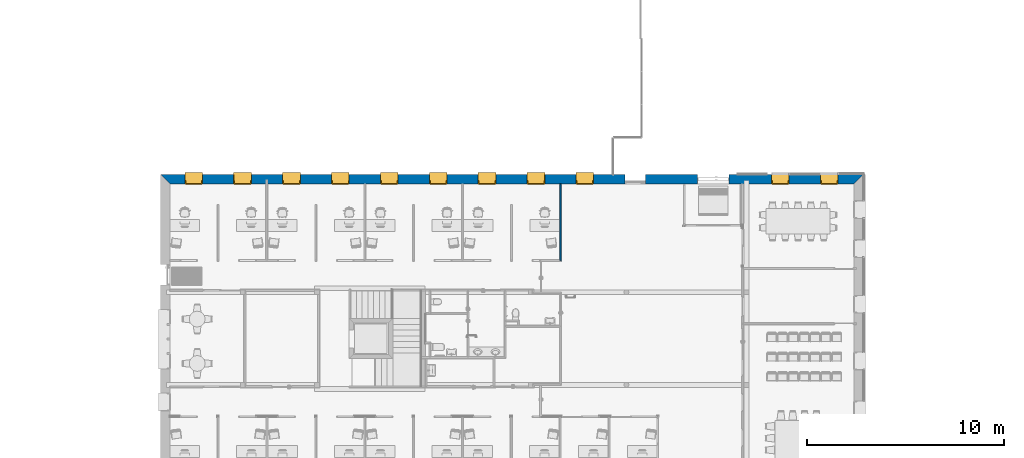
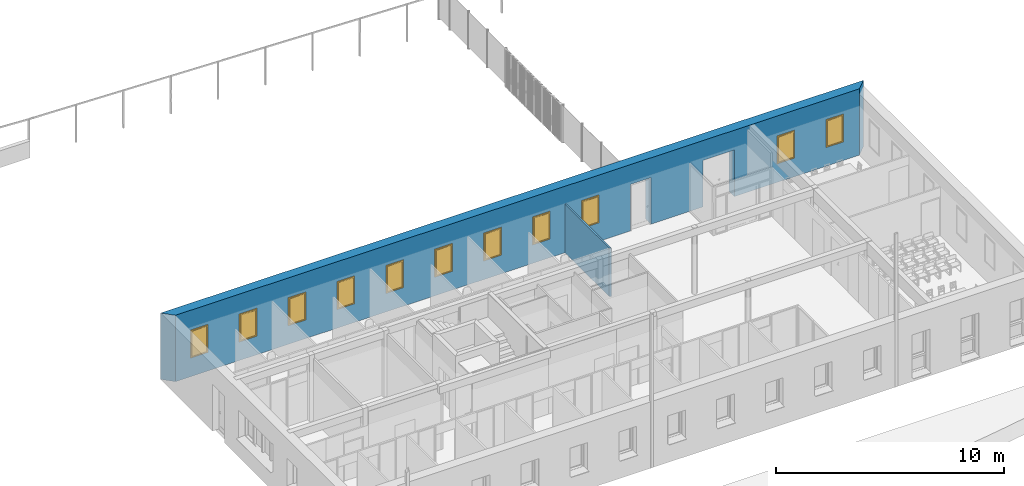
# One storey, part 27 of 91: 11 windows, 2 walls, 13 openings.
"""IFC2X3 building model written with IfcOpenShell, lengths in metres."""

from ifc_helpers import new_model, entity, si_unit, converted_unit, derived_unit, money_unit, direction, frame, origin_with_axes, origin_2d_with_axis, place, context, subcontext, project, spatial, polyline, rectangle, outline, extrude, open_shell, faceted_brep, surface_model, source, transform, mapped, material, layer, layer_set, layer_usage, type_object, element, fill, save


model = new_model("IFC2X3")

# Units and contexts
model_context = context("Model", 3, precision=1e-05, world=origin_with_axes(), true_north=direction((0.0, 1.0)))
body_context = subcontext(model_context, "Body", "Model", "MODEL_VIEW")
ifc_project = project(units=[si_unit("LENGTHUNIT", "METRE"), si_unit("AREAUNIT", "SQUARE_METRE"), si_unit("VOLUMEUNIT", "CUBIC_METRE"), converted_unit("PLANEANGLEUNIT", "DEGREE", entity("IfcPlaneAngleMeasure", 0.0174532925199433), si_unit("PLANEANGLEUNIT", "RADIAN"), dimensions=[0, 0, 0, 0, 0, 0, 0]), money_unit("EUR"), converted_unit("TIMEUNIT", "Year", entity("IfcTimeMeasure", 31557600.0), si_unit("TIMEUNIT", "SECOND"), dimensions=[0, 0, 1, 0, 0, 0, 0]), si_unit("MASSUNIT", "GRAM", prefix="KILO"), si_unit("THERMODYNAMICTEMPERATUREUNIT", "DEGREE_CELSIUS"), si_unit("LUMINOUSINTENSITYUNIT", "LUMEN"), si_unit("ENERGYUNIT", "JOULE", prefix="MEGA"), derived_unit("THERMALCONDUCTANCEUNIT", [(si_unit("POWERUNIT", "WATT"), 1), (si_unit("LENGTHUNIT", "METRE"), -1), (si_unit("THERMODYNAMICTEMPERATUREUNIT", "KELVIN"), -1)]), derived_unit("SPECIFICHEATCAPACITYUNIT", [(si_unit("ENERGYUNIT", "JOULE"), 1), (si_unit("MASSUNIT", "GRAM", prefix="KILO"), -1), (si_unit("THERMODYNAMICTEMPERATUREUNIT", "KELVIN"), -1)]), derived_unit("MASSDENSITYUNIT", [(si_unit("MASSUNIT", "GRAM", prefix="KILO"), 1), (si_unit("VOLUMEUNIT", "CUBIC_METRE"), -1)])], contexts=[model_context])

# Site, building, storey
site_placement = place(None, origin_with_axes())
site = spatial("IfcSite", under=ifc_project, at=site_placement, Name="Site", CompositionType="ELEMENT")
building_placement = place(site_placement, origin_with_axes())
building = spatial("IfcBuilding", under=site, at=building_placement, Name="Bâtiment", CompositionType="ELEMENT")
storey_placement = place(building_placement, origin_with_axes())
storey = spatial("IfcBuildingStorey", under=building, at=storey_placement, Name="RDC", CompositionType="ELEMENT", Elevation=0.0)

# Wall
ifc_material_1 = material(Name="*PLAQUE DE PLATRE - CLOISON")
ifc_layer_1 = layer(ifc_material_1, 0.08, ventilated="UNKNOWN")
ifc_layer_set_1 = layer_set([ifc_layer_1], Name="*PLAQUE DE PLATRE - CLOISON 0.08")
ifc_layer_usage_1 = layer_usage(ifc_layer_set_1, "AXIS2", "NEGATIVE", 0.0)
wall_type_1 = type_object("IfcWallType", Name="*PLAQUE DE PLATRE - CLOISON 80", PredefinedType="NOTDEFINED")
wall_1_placement = place(storey_placement, frame((44.86299999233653, -15.18656213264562, 0.0), z_axis=(0.0, 0.0, 1.0), x_axis=(0.0, 1.0, 0.0)))
element("IfcWallStandardCase", 1, at=wall_1_placement, inside=storey, type_object=wall_type_1, material=ifc_layer_usage_1, Name="Cloison modulaire", context=body_context, shape_type="SweptSolid", body=[
    extrude(outline(polyline([(0.0, -0.0799999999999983), (3.929000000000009, -0.0799999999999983), (3.929000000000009, 0.0), (0.08000000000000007, 0.0), (0.0, -0.0799999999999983)])), origin_with_axes(), (0.0, 0.0, 1.0), 2.6),
])

# Wall, openings, windows
ifc_material_2 = material(Name="*MÉTAL- BARDAGE")
ifc_layer_2 = layer(ifc_material_2, 0.04, ventilated="UNKNOWN")
ifc_material_3 = material(Name="Divers - Vide faux plafond")
ifc_layer_3 = layer(ifc_material_3, 0.05, ventilated="UNKNOWN")
ifc_material_4 = material(Name="Finition int - Enduit plâtre")
ifc_layer_4 = layer(ifc_material_4, 0.01, ventilated="UNKNOWN")
ifc_material_5 = material(Name="*GENERIQUE - MAÇONNERIE")
ifc_layer_5 = layer(ifc_material_5, 0.2, ventilated="UNKNOWN")
ifc_layer_6 = layer(ifc_material_4, 0.01, ventilated="UNKNOWN")
ifc_material_6 = material(Name="Vide pour liteaux")
ifc_layer_7 = layer(ifc_material_6, 0.01, ventilated="UNKNOWN")
ifc_material_7 = material(Name="*GENERIQUE - ISOLATION PLANCHER")
ifc_layer_8 = layer(ifc_material_7, 0.14, ventilated="UNKNOWN")
ifc_material_8 = material(Name="*PLAQUE DE PLATRE - DOUBLAGE")
ifc_layer_9 = layer(ifc_material_8, 0.018, ventilated="UNKNOWN")
ifc_layer_set_2 = layer_set([ifc_layer_2, ifc_layer_3, ifc_layer_4, ifc_layer_5, ifc_layer_6, ifc_layer_7, ifc_layer_8, ifc_layer_9], Name="*MACONNERIE ITI BARDAGE METAL")
ifc_layer_usage_2 = layer_usage(ifc_layer_set_2, "AXIS2", "POSITIVE", -0.478)
wall_type_2 = type_object("IfcWallType", Name="*MACONNERIE ITI BARDAGE METAL 478", PredefinedType="NOTDEFINED")
wall_2_placement = place(storey_placement, frame((59.8, -11.25756213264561, 0.0), z_axis=(0.0, 0.0, 1.0), x_axis=(-1.0, 0.0, 0.0)))
wall_2 = element("IfcWallStandardCase", 2, at=wall_2_placement, inside=storey, type_object=wall_type_2, material=ifc_layer_usage_2, Name="Mur maçonné + ITI + véture métallique", context=body_context, shape_type="SweptSolid", body=[
    extrude(outline(polyline([(-0.4780000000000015, -0.4779999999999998), (35.17800000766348, -0.4779999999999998), (34.70000000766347, 0.0), (0.0, 0.0), (-0.4780000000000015, -0.4779999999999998)])), origin_with_axes(), (0.0, 0.0, 1.0), 3.56),
])
opening_1_placement = place(wall_2_placement, frame((33.49700000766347, 0.0, 1.0), z_axis=(0.0, 0.0, 1.0), x_axis=(1.0, 0.0, 0.0)))
opening_1 = element("IfcOpeningElement", 3, at=opening_1_placement, cuts=wall_2, Name="ME.01", context=body_context, shape_type="SweptSolid", body=[
    extrude(rectangle(XDim=0.8999999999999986, YDim=1.5, at=origin_2d_with_axis()), frame((0.0, -0.158000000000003, 0.75), z_axis=(0.0, 1.0, 0.0), x_axis=(1.0, 0.0, 0.0)), (0.0, 0.0, -1.0), 0.798),
    extrude(rectangle(XDim=0.8999999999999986, YDim=1.5, at=origin_2d_with_axis()), frame((0.0, -0.158000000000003, 0.75), z_axis=(0.0, -1.0, 0.0), x_axis=(1.0, 0.0, 0.0)), (0.0, 0.0, -1.0), 0.6360000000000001),
])
opening_2_placement = place(wall_2_placement, frame((31.01700000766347, 0.0, 1.0), z_axis=(0.0, 0.0, 1.0), x_axis=(1.0, 0.0, 0.0)))
opening_2 = element("IfcOpeningElement", 4, at=opening_2_placement, cuts=wall_2, Name="ME.01", context=body_context, shape_type="SweptSolid", body=[
    extrude(rectangle(XDim=0.8999999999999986, YDim=1.5, at=origin_2d_with_axis()), frame((0.0, -0.158000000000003, 0.75), z_axis=(0.0, 1.0, 0.0), x_axis=(1.0, 0.0, 0.0)), (0.0, 0.0, -1.0), 0.798),
    extrude(rectangle(XDim=0.8999999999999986, YDim=1.5, at=origin_2d_with_axis()), frame((0.0, -0.158000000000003, 0.75), z_axis=(0.0, -1.0, 0.0), x_axis=(1.0, 0.0, 0.0)), (0.0, 0.0, -1.0), 0.6360000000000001),
])
opening_3_placement = place(wall_2_placement, frame((28.53700000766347, 0.0, 1.0), z_axis=(0.0, 0.0, 1.0), x_axis=(1.0, 0.0, 0.0)))
opening_3 = element("IfcOpeningElement", 5, at=opening_3_placement, cuts=wall_2, Name="ME.01", context=body_context, shape_type="SweptSolid", body=[
    extrude(rectangle(XDim=0.8999999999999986, YDim=1.5, at=origin_2d_with_axis()), frame((0.0, -0.158000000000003, 0.75), z_axis=(0.0, 1.0, 0.0), x_axis=(1.0, 0.0, 0.0)), (0.0, 0.0, -1.0), 0.798),
    extrude(rectangle(XDim=0.8999999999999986, YDim=1.5, at=origin_2d_with_axis()), frame((0.0, -0.158000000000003, 0.75), z_axis=(0.0, -1.0, 0.0), x_axis=(1.0, 0.0, 0.0)), (0.0, 0.0, -1.0), 0.6360000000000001),
])
opening_4_placement = place(wall_2_placement, frame((26.05700000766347, 0.0, 1.0), z_axis=(0.0, 0.0, 1.0), x_axis=(1.0, 0.0, 0.0)))
opening_4 = element("IfcOpeningElement", 6, at=opening_4_placement, cuts=wall_2, Name="ME.01", context=body_context, shape_type="SweptSolid", body=[
    extrude(rectangle(XDim=0.9000000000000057, YDim=1.5, at=origin_2d_with_axis()), frame((0.0, -0.158000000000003, 0.75), z_axis=(0.0, 1.0, 0.0), x_axis=(1.0, 0.0, 0.0)), (0.0, 0.0, -1.0), 0.798),
    extrude(rectangle(XDim=0.9000000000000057, YDim=1.5, at=origin_2d_with_axis()), frame((0.0, -0.158000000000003, 0.75), z_axis=(0.0, -1.0, 0.0), x_axis=(1.0, 0.0, 0.0)), (0.0, 0.0, -1.0), 0.6360000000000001),
])
opening_5_placement = place(wall_2_placement, frame((23.57700000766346, 0.0, 1.0), z_axis=(0.0, 0.0, 1.0), x_axis=(1.0, 0.0, 0.0)))
opening_5 = element("IfcOpeningElement", 7, at=opening_5_placement, cuts=wall_2, Name="ME.01", context=body_context, shape_type="SweptSolid", body=[
    extrude(rectangle(XDim=0.9000000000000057, YDim=1.5, at=origin_2d_with_axis()), frame((0.0, -0.158000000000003, 0.75), z_axis=(0.0, 1.0, 0.0), x_axis=(1.0, 0.0, 0.0)), (0.0, 0.0, -1.0), 0.798),
    extrude(rectangle(XDim=0.9000000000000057, YDim=1.5, at=origin_2d_with_axis()), frame((0.0, -0.158000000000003, 0.75), z_axis=(0.0, -1.0, 0.0), x_axis=(1.0, 0.0, 0.0)), (0.0, 0.0, -1.0), 0.6360000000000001),
])
opening_6_placement = place(wall_2_placement, frame((21.09700000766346, 0.0, 1.0), z_axis=(0.0, 0.0, 1.0), x_axis=(1.0, 0.0, 0.0)))
opening_6 = element("IfcOpeningElement", 8, at=opening_6_placement, cuts=wall_2, Name="ME.01", context=body_context, shape_type="SweptSolid", body=[
    extrude(rectangle(XDim=0.9000000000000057, YDim=1.5, at=origin_2d_with_axis()), frame((0.0, -0.1580000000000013, 0.75), z_axis=(0.0, 1.0, 0.0), x_axis=(1.0, 0.0, 0.0)), (0.0, 0.0, -1.0), 0.798),
    extrude(rectangle(XDim=0.9000000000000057, YDim=1.5, at=origin_2d_with_axis()), frame((0.0, -0.1580000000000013, 0.75), z_axis=(0.0, -1.0, 0.0), x_axis=(1.0, 0.0, 0.0)), (0.0, 0.0, -1.0), 0.6360000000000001),
])
opening_7_placement = place(wall_2_placement, frame((18.61700000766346, 0.0, 1.0), z_axis=(0.0, 0.0, 1.0), x_axis=(1.0, 0.0, 0.0)))
opening_7 = element("IfcOpeningElement", 9, at=opening_7_placement, cuts=wall_2, Name="ME.01", context=body_context, shape_type="SweptSolid", body=[
    extrude(rectangle(XDim=0.9000000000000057, YDim=1.5, at=origin_2d_with_axis()), frame((0.0, -0.1580000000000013, 0.75), z_axis=(0.0, 1.0, 0.0), x_axis=(1.0, 0.0, 0.0)), (0.0, 0.0, -1.0), 0.798),
    extrude(rectangle(XDim=0.9000000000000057, YDim=1.5, at=origin_2d_with_axis()), frame((0.0, -0.1580000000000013, 0.75), z_axis=(0.0, -1.0, 0.0), x_axis=(1.0, 0.0, 0.0)), (0.0, 0.0, -1.0), 0.6360000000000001),
])
opening_8_placement = place(wall_2_placement, frame((16.13700000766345, 0.0, 1.0), z_axis=(0.0, 0.0, 1.0), x_axis=(1.0, 0.0, 0.0)))
opening_8 = element("IfcOpeningElement", 10, at=opening_8_placement, cuts=wall_2, Name="ME.01", context=body_context, shape_type="SweptSolid", body=[
    extrude(rectangle(XDim=0.9000000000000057, YDim=1.5, at=origin_2d_with_axis()), frame((0.0, -0.1580000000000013, 0.75), z_axis=(0.0, 1.0, 0.0), x_axis=(1.0, 0.0, 0.0)), (0.0, 0.0, -1.0), 0.798),
    extrude(rectangle(XDim=0.9000000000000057, YDim=1.5, at=origin_2d_with_axis()), frame((0.0, -0.1580000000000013, 0.75), z_axis=(0.0, -1.0, 0.0), x_axis=(1.0, 0.0, 0.0)), (0.0, 0.0, -1.0), 0.6360000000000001),
])
opening_9_placement = place(wall_2_placement, frame((3.737000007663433, 0.0, 1.0), z_axis=(0.0, 0.0, 1.0), x_axis=(1.0, 0.0, 0.0)))
opening_9 = element("IfcOpeningElement", 11, at=opening_9_placement, cuts=wall_2, Name="ME.01", context=body_context, shape_type="SweptSolid", body=[
    extrude(rectangle(XDim=0.9000000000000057, YDim=1.5, at=origin_2d_with_axis()), frame((0.0, -0.1579999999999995, 0.75), z_axis=(0.0, 1.0, 0.0), x_axis=(1.0, 0.0, 0.0)), (0.0, 0.0, -1.0), 0.798),
    extrude(rectangle(XDim=0.9000000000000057, YDim=1.5, at=origin_2d_with_axis()), frame((0.0, -0.1579999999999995, 0.75), z_axis=(0.0, -1.0, 0.0), x_axis=(1.0, 0.0, 0.0)), (0.0, 0.0, -1.0), 0.6360000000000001),
])
opening_10_placement = place(wall_2_placement, frame((1.257000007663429, 0.0, 1.0), z_axis=(0.0, 0.0, 1.0), x_axis=(1.0, 0.0, 0.0)))
opening_10 = element("IfcOpeningElement", 12, at=opening_10_placement, cuts=wall_2, Name="ME.01", context=body_context, shape_type="SweptSolid", body=[
    extrude(rectangle(XDim=0.9000000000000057, YDim=1.5, at=origin_2d_with_axis()), frame((0.0, -0.1579999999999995, 0.75), z_axis=(0.0, 1.0, 0.0), x_axis=(1.0, 0.0, 0.0)), (0.0, 0.0, -1.0), 0.798),
    extrude(rectangle(XDim=0.9000000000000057, YDim=1.5, at=origin_2d_with_axis()), frame((0.0, -0.1579999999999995, 0.75), z_axis=(0.0, -1.0, 0.0), x_axis=(1.0, 0.0, 0.0)), (0.0, 0.0, -1.0), 0.6360000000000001),
])
opening_11_placement = place(wall_2_placement, frame((13.65700000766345, 0.0, 1.0), z_axis=(0.0, 0.0, 1.0), x_axis=(1.0, 0.0, 0.0)))
opening_11 = element("IfcOpeningElement", 13, at=opening_11_placement, cuts=wall_2, Name="ME.01", context=body_context, shape_type="SweptSolid", body=[
    extrude(rectangle(XDim=0.9000000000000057, YDim=1.5, at=origin_2d_with_axis()), frame((0.0, -0.1580000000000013, 0.75), z_axis=(0.0, 1.0, 0.0), x_axis=(1.0, 0.0, 0.0)), (0.0, 0.0, -1.0), 0.798),
    extrude(rectangle(XDim=0.9000000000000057, YDim=1.5, at=origin_2d_with_axis()), frame((0.0, -0.1580000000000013, 0.75), z_axis=(0.0, -1.0, 0.0), x_axis=(1.0, 0.0, 0.0)), (0.0, 0.0, -1.0), 0.6360000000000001),
])
opening_12_placement = place(wall_2_placement, frame((7.140000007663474, 0.0, 0.0), z_axis=(0.0, 0.0, 1.0), x_axis=(1.0, 0.0, 0.0)))
element("IfcOpeningElement", 14, at=opening_12_placement, cuts=wall_2, Name="PE.01", context=body_context, shape_type="SweptSolid", body=[
    extrude(rectangle(XDim=1.599999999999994, YDim=2.5, at=origin_2d_with_axis()), frame((0.0, -0.3279999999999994, 1.25), z_axis=(0.0, 1.0, 0.0), x_axis=(1.0, 0.0, 0.0)), (0.0, 0.0, 1.0), 0.806),
    extrude(rectangle(XDim=1.599999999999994, YDim=2.5, at=origin_2d_with_axis()), frame((0.0, -0.3279999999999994, 1.25), z_axis=(0.0, -1.0, 0.0), x_axis=(1.0, 0.0, 0.0)), (0.0, 0.0, 1.0), 0.628),
])
opening_13_placement = place(wall_2_placement, frame((11.10200000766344, 0.0, 0.0), z_axis=(0.0, 0.0, 1.0), x_axis=(1.0, 0.0, 0.0)))
element("IfcOpeningElement", 15, at=opening_13_placement, cuts=wall_2, Name="PE.02", context=body_context, shape_type="SweptSolid", body=[
    extrude(rectangle(XDim=1.049999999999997, YDim=2.5, at=origin_2d_with_axis()), frame((0.0, -0.1180000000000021, 1.25), z_axis=(0.0, -1.0, 0.0), x_axis=(1.0, 0.0, 0.0)), (0.0, 0.0, 1.0), 0.8380000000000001),
    extrude(rectangle(XDim=1.049999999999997, YDim=2.5, at=origin_2d_with_axis()), frame((0.0, -0.1180000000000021, 1.25), z_axis=(0.0, 1.0, 0.0), x_axis=(1.0, 0.0, 0.0)), (0.0, 0.0, 1.0), 0.5960000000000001),
])
window_style = type_object("IfcWindowStyle", Name="Fenêtre 27", ConstructionType="NOTDEFINED", OperationType="SINGLE_PANEL", ParameterTakesPrecedence=False, Sizeable=False)
shared_shape = source(origin_with_axes(), body_context, "Body", "SurfaceModel", [
    surface_model("IfcShellBasedSurfaceModel", [(-0.45, -0.161, 0.05), (-0.45, -0.161, 0.03999999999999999), (0.45, -0.161, 0.04000000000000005), (0.45, -0.161, 0.05000000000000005), (-0.45, -0.5850000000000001, 0.01343749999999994), (0.45, -0.5850000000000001, 0.01343749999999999), (-0.45, -0.5850000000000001, -0.006562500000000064), (0.45, -0.5850000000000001, -0.006562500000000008), (-0.45, -0.5750000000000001, 0.003437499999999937), (0.45, -0.5750000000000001, 0.003437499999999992)], [open_shell([[[0, 1, 2, 3]], [[1, 4, 5, 2]], [[4, 6, 7, 5]], [[6, 8, 9, 7]]])]),
    faceted_brep([(-0.447, -0.48, 0.02001547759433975), (-0.447, -0.161, 0.04000000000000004), (-0.447, -0.161, 0.05000000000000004), (-0.447, -0.16, 0.05000000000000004), (-0.447, -0.1599999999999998, 1.497), (-0.447, -0.4799999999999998, 1.497), (-0.45, -0.4799999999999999, 0.02001547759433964), (-0.45, -0.161, 0.04000000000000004), (-0.45, -0.161, 0.05000000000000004), (-0.45, -0.16, 0.05000000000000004), (-0.45, -0.1599999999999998, 1.5), (-0.45, -0.4799999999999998, 1.5)], [[[0, 1, 2, 3, 4, 5]], [[1, 0, 6, 7]], [[2, 1, 7, 8]], [[3, 2, 8, 9]], [[3, 9, 10, 4]], [[10, 11, 5, 4]], [[6, 0, 5, 11]], [[7, 6, 11, 10, 9, 8]]]),
    faceted_brep([(0.45, -0.48, 0.02001547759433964), (0.45, -0.161, 0.04000000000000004), (0.45, -0.161, 0.05000000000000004), (0.45, -0.16, 0.05000000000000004), (0.45, -0.1599999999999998, 1.5), (0.45, -0.4799999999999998, 1.5), (0.447, -0.48, 0.02001547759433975), (0.447, -0.161, 0.04000000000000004), (0.447, -0.161, 0.05000000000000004), (0.447, -0.16, 0.05000000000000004), (0.447, -0.1599999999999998, 1.497), (0.447, -0.4799999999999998, 1.497)], [[[0, 1, 2, 3, 4, 5]], [[1, 0, 6, 7]], [[2, 1, 7, 8]], [[3, 2, 8, 9]], [[3, 9, 10, 4]], [[10, 11, 5, 4]], [[6, 0, 5, 11]], [[7, 6, 11, 10, 9, 8]]]),
    faceted_brep([(-0.45, -0.1599999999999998, 1.5), (-0.447, -0.1599999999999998, 1.497), (-0.447, -0.4799999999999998, 1.497), (-0.45, -0.4799999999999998, 1.5), (0.45, -0.1599999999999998, 1.5), (0.447, -0.1599999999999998, 1.497), (0.447, -0.4799999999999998, 1.497), (0.45, -0.4799999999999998, 1.5)], [[[0, 1, 2, 3]], [[0, 4, 5, 1]], [[1, 5, 6, 2]], [[3, 2, 6, 7]], [[4, 0, 3, 7]], [[5, 4, 7, 6]]]),
    faceted_brep([(-0.425, 0.0, 1.45), (-0.45, 0.0, 1.45), (-0.45, -0.1600000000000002, 1.45), (-0.4, -0.1600000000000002, 1.45), (-0.4, -0.02500000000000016, 1.45), (-0.425, -0.02500000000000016, 1.45), (-0.425, 0.0, 0.05000000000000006), (-0.45, 0.0, 0.05000000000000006), (-0.45, -0.16, 0.05000000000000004), (-0.4, -0.16, 0.05000000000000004), (-0.4, -0.02499999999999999, 0.05000000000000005), (-0.425, -0.02499999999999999, 0.05000000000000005)], [[[0, 1, 2, 3, 4, 5]], [[6, 7, 1, 0]], [[1, 7, 8, 2]], [[2, 8, 9, 3]], [[4, 3, 9, 10]], [[10, 11, 5, 4]], [[5, 11, 6, 0]], [[11, 10, 9, 8, 7, 6]]]),
    faceted_brep([(0.4, -0.02500000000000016, 1.45), (0.4, -0.1600000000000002, 1.45), (0.45, -0.1600000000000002, 1.45), (0.45, 0.0, 1.45), (0.425, 0.0, 1.45), (0.425, -0.02500000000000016, 1.45), (0.4, -0.02499999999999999, 0.05000000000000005), (0.4, -0.16, 0.05000000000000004), (0.45, -0.16, 0.05000000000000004), (0.45, 0.0, 0.05000000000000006), (0.425, 0.0, 0.05000000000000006), (0.425, -0.02499999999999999, 0.05000000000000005)], [[[0, 1, 2, 3, 4, 5]], [[6, 7, 1, 0]], [[8, 2, 1, 7]], [[9, 3, 2, 8]], [[4, 3, 9, 10]], [[10, 11, 5, 4]], [[5, 11, 6, 0]], [[11, 10, 9, 8, 7, 6]]]),
    faceted_brep([(0.4, -0.02499999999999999, 0.05000000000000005), (0.4, -0.16, 0.05000000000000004), (0.45, -0.16, 0.05000000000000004), (0.45, 0.0, 0.05000000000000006), (0.425, 0.0, 0.05000000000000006), (0.425, -0.02499999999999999, 0.05000000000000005), (-0.4, -0.02499999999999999, 0.05000000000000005), (-0.4, -0.16, 0.05000000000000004), (-0.45, -0.16, 0.05000000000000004), (-0.45, -0.16, 0.0), (0.45, -0.16, 0.0), (0.45, 0.0, 0.0), (-0.425, 0.0, 0.02500000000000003), (0.425, 0.0, 0.02500000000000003), (-0.45, 0.0, 0.0), (-0.45, 0.0, 0.05000000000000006), (-0.425, 0.0, 0.05000000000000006), (0.425, -0.02499999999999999, 0.02500000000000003), (-0.425, -0.02499999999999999, 0.02500000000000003), (-0.425, -0.02499999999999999, 0.05000000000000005)], [[[0, 1, 2, 3, 4, 5]], [[6, 7, 1, 0]], [[8, 9, 10, 2, 1, 7]], [[11, 3, 2, 10]], [[12, 13, 4, 3, 11, 14, 15, 16]], [[13, 17, 5, 4]], [[5, 17, 18, 19, 6, 0]], [[19, 16, 15, 8, 7, 6]], [[15, 14, 9, 8]], [[14, 11, 10, 9]], [[12, 18, 17, 13]], [[19, 18, 12, 16]]]),
    faceted_brep([(-0.425, 0.0, 1.45), (-0.45, 0.0, 1.45), (-0.45, 0.0, 1.5), (0.45, 0.0, 1.5), (0.45, 0.0, 1.45), (0.425, 0.0, 1.45), (0.425, 0.0, 1.475), (-0.425, 0.0, 1.475), (-0.425, -0.02500000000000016, 1.45), (-0.4, -0.02500000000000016, 1.45), (-0.4, -0.1600000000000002, 1.45), (-0.45, -0.1600000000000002, 1.45), (-0.45, -0.1600000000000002, 1.5), (0.45, -0.1600000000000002, 1.5), (0.45, -0.1600000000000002, 1.45), (0.425, -0.02500000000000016, 1.45), (0.4, -0.1600000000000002, 1.45), (0.4, -0.02500000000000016, 1.45), (0.425, -0.02500000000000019, 1.475), (-0.425, -0.02500000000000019, 1.475)], [[[0, 1, 2, 3, 4, 5, 6, 7]], [[8, 9, 10, 11, 1, 0]], [[2, 1, 11, 12]], [[3, 2, 12, 13]], [[4, 3, 13, 14]], [[15, 5, 4, 14, 16, 17]], [[5, 15, 18, 6]], [[6, 18, 19, 7]], [[7, 19, 8, 0]], [[17, 9, 8, 19, 18, 15]], [[17, 16, 10, 9]], [[14, 13, 12, 11, 10, 16]]]),
    faceted_brep([(-0.3750000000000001, -0.02500000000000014, 1.425), (-0.3750000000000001, 0.02499999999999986, 1.425), (-0.425, 0.02499999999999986, 1.425), (-0.425, -0.02500000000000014, 1.425), (-0.3750000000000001, -0.02499999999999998, 0.07500000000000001), (-0.3750000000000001, 0.02500000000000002, 0.07500000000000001), (-0.425, 0.02500000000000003, 0.07500000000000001), (-0.425, -0.02499999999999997, 0.07500000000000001)], [[[0, 1, 2, 3]], [[4, 5, 1, 0]], [[1, 5, 6, 2]], [[3, 2, 6, 7]], [[0, 3, 7, 4]], [[7, 6, 5, 4]]]),
    faceted_brep([(0.3750000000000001, -0.02500000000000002, 0.07500000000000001), (0.3750000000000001, 0.02499999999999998, 0.07500000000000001), (0.425, 0.02499999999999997, 0.07500000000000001), (0.425, -0.02500000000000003, 0.07500000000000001), (0.3750000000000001, -0.02500000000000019, 1.425), (0.3750000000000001, 0.02499999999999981, 1.425), (0.425, 0.02499999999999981, 1.425), (0.425, -0.02500000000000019, 1.425)], [[[0, 1, 2, 3]], [[4, 5, 1, 0]], [[1, 5, 6, 2]], [[3, 2, 6, 7]], [[0, 3, 7, 4]], [[7, 6, 5, 4]]]),
    faceted_brep([(0.425, -0.02500000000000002, 0.02500000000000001), (0.425, 0.02499999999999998, 0.02500000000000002), (0.425, 0.02499999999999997, 0.07500000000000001), (0.425, -0.02500000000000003, 0.07500000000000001), (-0.425, -0.02499999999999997, 0.02500000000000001), (-0.425, 0.02500000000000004, 0.02500000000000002), (-0.425, 0.02500000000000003, 0.07500000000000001), (-0.3750000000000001, 0.02500000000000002, 0.07500000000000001), (0.3750000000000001, 0.02499999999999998, 0.07500000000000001), (0.3750000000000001, -0.02500000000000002, 0.07500000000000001), (-0.3750000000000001, -0.02499999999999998, 0.07500000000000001), (-0.425, -0.02499999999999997, 0.07500000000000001)], [[[0, 1, 2, 3]], [[4, 5, 1, 0]], [[1, 5, 6, 7, 8, 2]], [[3, 2, 8, 9]], [[0, 3, 9, 10, 11, 4]], [[11, 6, 5, 4]], [[10, 7, 6, 11]], [[9, 8, 7, 10]]]),
    faceted_brep([(-0.425, -0.02500000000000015, 1.475), (-0.425, 0.02499999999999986, 1.475), (-0.425, 0.02499999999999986, 1.425), (-0.425, -0.02500000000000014, 1.425), (0.425, -0.0250000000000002, 1.475), (0.425, 0.0249999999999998, 1.475), (0.425, 0.02499999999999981, 1.425), (0.3750000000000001, 0.02499999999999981, 1.425), (-0.3750000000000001, 0.02499999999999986, 1.425), (-0.3750000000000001, -0.02500000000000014, 1.425), (0.3750000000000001, -0.02500000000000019, 1.425), (0.425, -0.02500000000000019, 1.425)], [[[0, 1, 2, 3]], [[4, 5, 1, 0]], [[1, 5, 6, 7, 8, 2]], [[3, 2, 8, 9]], [[0, 3, 9, 10, 11, 4]], [[11, 6, 5, 4]], [[10, 7, 6, 11]], [[9, 8, 7, 10]]]),
    surface_model("IfcShellBasedSurfaceModel", [(-0.3750000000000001, -0.01, 0.07500000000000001), (0.3750000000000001, -0.01, 0.07500000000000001), (0.3750000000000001, -0.01000000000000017, 1.425), (-0.3750000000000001, -0.01000000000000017, 1.425)], [open_shell([[[0, 1, 2, 3]]])]),
    surface_model("IfcShellBasedSurfaceModel", [(-0.3750000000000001, 0.01, 0.07500000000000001), (-0.3750000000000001, 0.009999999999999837, 1.425), (0.3750000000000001, 0.009999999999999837, 1.425), (0.3750000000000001, 0.01, 0.07500000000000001)], [open_shell([[[0, 1, 2, 3]]])]),
])
window_1_placement = place(opening_1_placement, frame((-0.4499999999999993, 0.0, 0.0), z_axis=(0.0, 0.0, 1.0), x_axis=(1.0, 0.0, 0.0)))
window_1 = element("IfcWindow", 16, at=window_1_placement, inside=storey, type_object=window_style, Name="ME.01", OverallHeight=1.5, OverallWidth=0.9, context=body_context, shape_type="MappedRepresentation", body=[
    mapped(shared_shape, transform((0.4499999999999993, 0.001999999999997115, 0.0))),
])
fill(opening_1, window_1)
window_2_placement = place(opening_3_placement, frame((-0.4499999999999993, 0.0, 0.0), z_axis=(0.0, 0.0, 1.0), x_axis=(1.0, 0.0, 0.0)))
window_2 = element("IfcWindow", 17, at=window_2_placement, inside=storey, type_object=window_style, Name="ME.01", OverallHeight=1.5, OverallWidth=0.9, context=body_context, shape_type="MappedRepresentation", body=[
    mapped(shared_shape, transform((0.4499999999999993, 0.001999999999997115, 0.0))),
])
fill(opening_3, window_2)
window_3_placement = place(opening_2_placement, frame((-0.4499999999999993, 0.0, 0.0), z_axis=(0.0, 0.0, 1.0), x_axis=(1.0, 0.0, 0.0)))
window_3 = element("IfcWindow", 18, at=window_3_placement, inside=storey, type_object=window_style, Name="ME.01", OverallHeight=1.5, OverallWidth=0.9, context=body_context, shape_type="MappedRepresentation", body=[
    mapped(shared_shape, transform((0.4499999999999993, 0.001999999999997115, 0.0))),
])
fill(opening_2, window_3)
window_4_placement = place(opening_4_placement, frame((-0.4500000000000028, 0.0, 0.0), z_axis=(0.0, 0.0, 1.0), x_axis=(1.0, 0.0, 0.0)))
window_4 = element("IfcWindow", 19, at=window_4_placement, inside=storey, type_object=window_style, Name="ME.01", OverallHeight=1.5, OverallWidth=0.9, context=body_context, shape_type="MappedRepresentation", body=[
    mapped(shared_shape, transform((0.4500000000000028, 0.001999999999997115, 0.0))),
])
fill(opening_4, window_4)
window_5_placement = place(opening_5_placement, frame((-0.4500000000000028, 0.0, 0.0), z_axis=(0.0, 0.0, 1.0), x_axis=(1.0, 0.0, 0.0)))
window_5 = element("IfcWindow", 20, at=window_5_placement, inside=storey, type_object=window_style, Name="ME.01", OverallHeight=1.5, OverallWidth=0.9, context=body_context, shape_type="MappedRepresentation", body=[
    mapped(shared_shape, transform((0.4500000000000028, 0.001999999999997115, 0.0))),
])
fill(opening_5, window_5)
window_6_placement = place(opening_7_placement, frame((-0.4500000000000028, 0.0, 0.0), z_axis=(0.0, 0.0, 1.0), x_axis=(1.0, 0.0, 0.0)))
window_6 = element("IfcWindow", 21, at=window_6_placement, inside=storey, type_object=window_style, Name="ME.01", OverallHeight=1.5, OverallWidth=0.9, context=body_context, shape_type="MappedRepresentation", body=[
    mapped(shared_shape, transform((0.4500000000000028, 0.001999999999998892, 0.0))),
])
fill(opening_7, window_6)
window_7_placement = place(opening_8_placement, frame((-0.4500000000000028, 0.0, 0.0), z_axis=(0.0, 0.0, 1.0), x_axis=(1.0, 0.0, 0.0)))
window_7 = element("IfcWindow", 22, at=window_7_placement, inside=storey, type_object=window_style, Name="ME.01", OverallHeight=1.5, OverallWidth=0.9, context=body_context, shape_type="MappedRepresentation", body=[
    mapped(shared_shape, transform((0.4500000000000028, 0.001999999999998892, 0.0))),
])
fill(opening_8, window_7)
window_8_placement = place(opening_6_placement, frame((-0.4500000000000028, 0.0, 0.0), z_axis=(0.0, 0.0, 1.0), x_axis=(1.0, 0.0, 0.0)))
window_8 = element("IfcWindow", 23, at=window_8_placement, inside=storey, type_object=window_style, Name="ME.01", OverallHeight=1.5, OverallWidth=0.9, context=body_context, shape_type="MappedRepresentation", body=[
    mapped(shared_shape, transform((0.4500000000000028, 0.001999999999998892, 0.0))),
])
fill(opening_6, window_8)
window_9_placement = place(opening_9_placement, frame((-0.4500000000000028, 0.0, 0.0), z_axis=(0.0, 0.0, 1.0), x_axis=(1.0, 0.0, 0.0)))
window_9 = element("IfcWindow", 24, at=window_9_placement, inside=storey, type_object=window_style, Name="ME.01", OverallHeight=1.5, OverallWidth=0.9, context=body_context, shape_type="MappedRepresentation", body=[
    mapped(shared_shape, transform((0.4500000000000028, 0.002000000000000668, 0.0))),
])
fill(opening_9, window_9)
window_10_placement = place(opening_10_placement, frame((-0.4500000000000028, 0.0, 0.0), z_axis=(0.0, 0.0, 1.0), x_axis=(1.0, 0.0, 0.0)))
window_10 = element("IfcWindow", 25, at=window_10_placement, inside=storey, type_object=window_style, Name="ME.01", OverallHeight=1.5, OverallWidth=0.9, context=body_context, shape_type="MappedRepresentation", body=[
    mapped(shared_shape, transform((0.4500000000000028, 0.002000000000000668, 0.0))),
])
fill(opening_10, window_10)
window_11_placement = place(opening_11_placement, frame((-0.4500000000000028, 0.0, 0.0), z_axis=(0.0, 0.0, 1.0), x_axis=(1.0, 0.0, 0.0)))
window_11 = element("IfcWindow", 26, at=window_11_placement, inside=storey, type_object=window_style, Name="ME.01", OverallHeight=1.5, OverallWidth=0.9, context=body_context, shape_type="MappedRepresentation", body=[
    mapped(shared_shape, transform((0.4500000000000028, 0.001999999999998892, 0.0))),
])
fill(opening_11, window_11)

save(model, "model.ifc")
